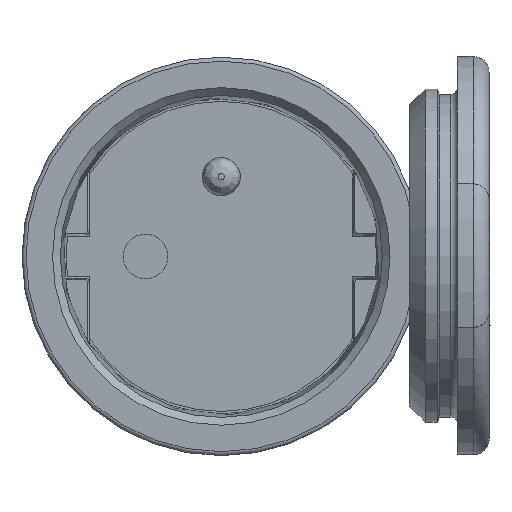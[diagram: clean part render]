
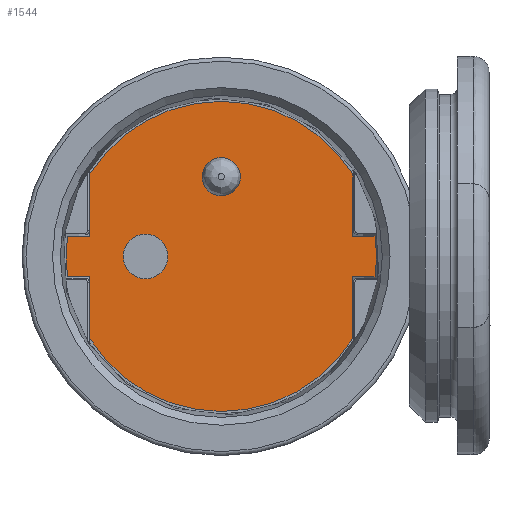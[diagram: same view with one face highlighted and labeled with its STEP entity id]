
A CAD part, front view. The second image highlights one B-rep face of the part: STEP entity #1544.
In plain terms, the highlighted planar face has unit normal (0, -1, 0).
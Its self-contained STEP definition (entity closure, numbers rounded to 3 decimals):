
#1149=FACE_BOUND('',#1886,.T.);
#1150=FACE_BOUND('',#1887,.T.);
#1544=ADVANCED_FACE('',(#1149,#1150),#1703,.T.);
#1703=PLANE('',#4708);
#1886=EDGE_LOOP('',(#2599,#2600,#2601,#2602,#2603,#2604,#2605,#2606,#2607,
#2608,#2609,#2610));
#1887=EDGE_LOOP('',(#2611));
#2139=LINE('',#6182,#2330);
#2140=LINE('',#6187,#2331);
#2141=LINE('',#6189,#2332);
#2142=LINE('',#6193,#2333);
#2143=LINE('',#6195,#2334);
#2144=LINE('',#6199,#2335);
#2145=LINE('',#6201,#2336);
#2146=LINE('',#6205,#2337);
#2330=VECTOR('',#5100,1.);
#2331=VECTOR('',#5103,1.);
#2332=VECTOR('',#5104,1.);
#2333=VECTOR('',#5107,1.);
#2334=VECTOR('',#5108,1.);
#2335=VECTOR('',#5111,1.);
#2336=VECTOR('',#5112,1.);
#2337=VECTOR('',#5115,1.);
#2599=ORIENTED_EDGE('',*,*,#3799,.T.);
#2600=ORIENTED_EDGE('',*,*,#3800,.T.);
#2601=ORIENTED_EDGE('',*,*,#3801,.T.);
#2602=ORIENTED_EDGE('',*,*,#3802,.T.);
#2603=ORIENTED_EDGE('',*,*,#3803,.T.);
#2604=ORIENTED_EDGE('',*,*,#3804,.T.);
#2605=ORIENTED_EDGE('',*,*,#3805,.T.);
#2606=ORIENTED_EDGE('',*,*,#3806,.T.);
#2607=ORIENTED_EDGE('',*,*,#3807,.T.);
#2608=ORIENTED_EDGE('',*,*,#3808,.T.);
#2609=ORIENTED_EDGE('',*,*,#3809,.T.);
#2610=ORIENTED_EDGE('',*,*,#3810,.T.);
#2611=ORIENTED_EDGE('',*,*,#3811,.T.);
#3321=VERTEX_POINT('',#6183);
#3322=VERTEX_POINT('',#6184);
#3323=VERTEX_POINT('',#6186);
#3324=VERTEX_POINT('',#6188);
#3325=VERTEX_POINT('',#6190);
#3326=VERTEX_POINT('',#6192);
#3327=VERTEX_POINT('',#6194);
#3328=VERTEX_POINT('',#6196);
#3329=VERTEX_POINT('',#6198);
#3330=VERTEX_POINT('',#6200);
#3331=VERTEX_POINT('',#6202);
#3332=VERTEX_POINT('',#6204);
#3333=VERTEX_POINT('',#6207);
#3799=EDGE_CURVE('',#3321,#3322,#2139,.T.);
#3800=EDGE_CURVE('',#3322,#3323,#4280,.T.);
#3801=EDGE_CURVE('',#3323,#3324,#2140,.T.);
#3802=EDGE_CURVE('',#3324,#3325,#2141,.T.);
#3803=EDGE_CURVE('',#3325,#3326,#4281,.T.);
#3804=EDGE_CURVE('',#3326,#3327,#2142,.T.);
#3805=EDGE_CURVE('',#3327,#3328,#2143,.T.);
#3806=EDGE_CURVE('',#3328,#3329,#4282,.T.);
#3807=EDGE_CURVE('',#3329,#3330,#2144,.T.);
#3808=EDGE_CURVE('',#3330,#3331,#2145,.T.);
#3809=EDGE_CURVE('',#3331,#3332,#4283,.T.);
#3810=EDGE_CURVE('',#3332,#3321,#2146,.T.);
#3811=EDGE_CURVE('',#3333,#3333,#4284,.T.);
#4280=CIRCLE('',#4703,19.45);
#4281=CIRCLE('',#4704,19.45);
#4282=CIRCLE('',#4705,19.45);
#4283=CIRCLE('',#4706,19.45);
#4284=CIRCLE('',#4707,2.8);
#4703=AXIS2_PLACEMENT_3D('',#6185,#5101,#5102);
#4704=AXIS2_PLACEMENT_3D('',#6191,#5105,#5106);
#4705=AXIS2_PLACEMENT_3D('',#6197,#5109,#5110);
#4706=AXIS2_PLACEMENT_3D('',#6203,#5113,#5114);
#4707=AXIS2_PLACEMENT_3D('',#6206,#5116,#5117);
#4708=AXIS2_PLACEMENT_3D('',#6208,#5118,#5119);
#5100=DIRECTION('',(1.,0.,0.));
#5101=DIRECTION('',(0.,-1.,0.));
#5102=DIRECTION('',(0.992,0.,-0.13));
#5103=DIRECTION('',(-1.,0.,0.));
#5104=DIRECTION('',(0.,0.,1.));
#5105=DIRECTION('',(0.,-1.,0.));
#5106=DIRECTION('',(-0.154,0.,0.988));
#5107=DIRECTION('',(0.,0.,-1.));
#5108=DIRECTION('',(-1.,0.,0.));
#5109=DIRECTION('',(0.,-1.,0.));
#5110=DIRECTION('',(-0.992,0.,0.13));
#5111=DIRECTION('',(1.,0.,0.));
#5112=DIRECTION('',(0.,0.,-1.));
#5113=DIRECTION('',(0.,-1.,0.));
#5114=DIRECTION('',(-0.847,0.,-0.532));
#5115=DIRECTION('',(0.,0.,1.));
#5116=DIRECTION('',(0.,1.,0.));
#5117=DIRECTION('',(-1.,0.,0.));
#5118=DIRECTION('',(0.,-1.,0.));
#5119=DIRECTION('',(1.,0.,0.));
#6182=CARTESIAN_POINT('',(76.475,91.721,-2.525));
#6183=CARTESIAN_POINT('',(76.475,91.721,-2.525));
#6184=CARTESIAN_POINT('',(79.285,91.721,-2.525));
#6185=CARTESIAN_POINT('',(60.,91.721,0.));
#6186=CARTESIAN_POINT('',(79.285,91.721,2.525));
#6187=CARTESIAN_POINT('',(79.285,91.721,2.525));
#6188=CARTESIAN_POINT('',(76.475,91.721,2.525));
#6189=CARTESIAN_POINT('',(76.475,91.721,2.525));
#6190=CARTESIAN_POINT('',(76.475,91.721,10.338));
#6191=CARTESIAN_POINT('',(60.,91.721,0.));
#6192=CARTESIAN_POINT('',(43.525,91.721,10.338));
#6193=CARTESIAN_POINT('',(43.525,91.721,10.338));
#6194=CARTESIAN_POINT('',(43.525,91.721,2.525));
#6195=CARTESIAN_POINT('',(43.525,91.721,2.525));
#6196=CARTESIAN_POINT('',(40.715,91.721,2.525));
#6197=CARTESIAN_POINT('',(60.,91.721,0.));
#6198=CARTESIAN_POINT('',(40.715,91.721,-2.525));
#6199=CARTESIAN_POINT('',(40.715,91.721,-2.525));
#6200=CARTESIAN_POINT('',(43.525,91.721,-2.525));
#6201=CARTESIAN_POINT('',(43.525,91.721,-2.525));
#6202=CARTESIAN_POINT('',(43.525,91.721,-10.338));
#6203=CARTESIAN_POINT('',(60.,91.721,0.));
#6204=CARTESIAN_POINT('',(76.475,91.721,-10.338));
#6205=CARTESIAN_POINT('',(76.475,91.721,-10.338));
#6206=CARTESIAN_POINT('',(50.5,91.721,0.));
#6207=CARTESIAN_POINT('',(47.7,91.721,0.));
#6208=CARTESIAN_POINT('',(60.,91.721,0.));
